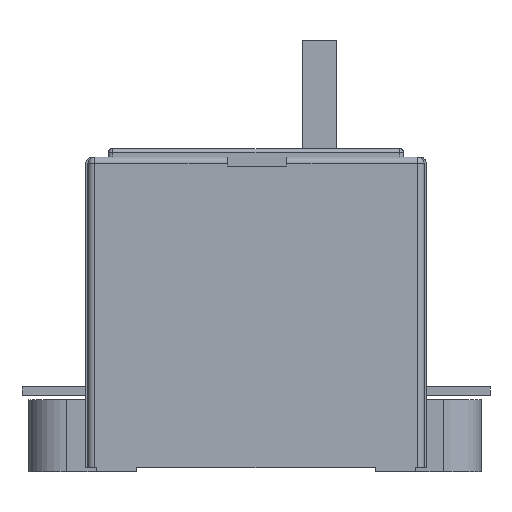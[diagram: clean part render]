
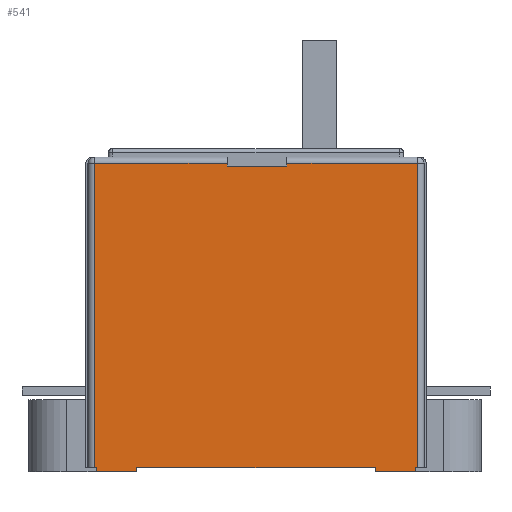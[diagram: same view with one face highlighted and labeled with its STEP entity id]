
A CAD part, left-side view. The second image highlights one B-rep face of the part: STEP entity #541.
In plain terms, the highlighted planar face has unit normal (-1, 0, 0).
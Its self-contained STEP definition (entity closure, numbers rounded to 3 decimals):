
#541=ADVANCED_FACE('',(#1103),#886,.F.);
#886=PLANE('',#6501);
#1103=FACE_OUTER_BOUND('',#1433,.T.);
#1433=EDGE_LOOP('',(#2204,#2205,#2206,#2207,#2208,#2209,#2210,#2211,#2212,
#2213,#2214,#2215,#2216,#2217,#2218,#2219));
#2204=ORIENTED_EDGE('',*,*,#4480,.F.);
#2205=ORIENTED_EDGE('',*,*,#4481,.T.);
#2206=ORIENTED_EDGE('',*,*,#4482,.T.);
#2207=ORIENTED_EDGE('',*,*,#4483,.F.);
#2208=ORIENTED_EDGE('',*,*,#4484,.T.);
#2209=ORIENTED_EDGE('',*,*,#4485,.T.);
#2210=ORIENTED_EDGE('',*,*,#4478,.T.);
#2211=ORIENTED_EDGE('',*,*,#4330,.T.);
#2212=ORIENTED_EDGE('',*,*,#4475,.F.);
#2213=ORIENTED_EDGE('',*,*,#4486,.F.);
#2214=ORIENTED_EDGE('',*,*,#4487,.T.);
#2215=ORIENTED_EDGE('',*,*,#4165,.T.);
#2216=ORIENTED_EDGE('',*,*,#4488,.F.);
#2217=ORIENTED_EDGE('',*,*,#4489,.F.);
#2218=ORIENTED_EDGE('',*,*,#4490,.T.);
#2219=ORIENTED_EDGE('',*,*,#4346,.T.);
#3603=VERTEX_POINT('',#8896);
#3604=VERTEX_POINT('',#8898);
#3760=VERTEX_POINT('',#9241);
#3761=VERTEX_POINT('',#9243);
#3772=VERTEX_POINT('',#9269);
#3775=VERTEX_POINT('',#9275);
#3855=VERTEX_POINT('',#9522);
#3857=VERTEX_POINT('',#9530);
#3858=VERTEX_POINT('',#9534);
#3859=VERTEX_POINT('',#9536);
#3860=VERTEX_POINT('',#9538);
#3861=VERTEX_POINT('',#9540);
#3862=VERTEX_POINT('',#9542);
#3863=VERTEX_POINT('',#9545);
#3864=VERTEX_POINT('',#9548);
#3865=VERTEX_POINT('',#9550);
#4165=EDGE_CURVE('',#3604,#3603,#5068,.T.);
#4330=EDGE_CURVE('',#3761,#3760,#5200,.T.);
#4346=EDGE_CURVE('',#3772,#3775,#5212,.T.);
#4475=EDGE_CURVE('',#3855,#3760,#5326,.T.);
#4478=EDGE_CURVE('',#3857,#3761,#5329,.T.);
#4480=EDGE_CURVE('',#3858,#3775,#5330,.T.);
#4481=EDGE_CURVE('',#3858,#3859,#5331,.T.);
#4482=EDGE_CURVE('',#3859,#3860,#5332,.T.);
#4483=EDGE_CURVE('',#3861,#3860,#5333,.T.);
#4484=EDGE_CURVE('',#3861,#3862,#5334,.T.);
#4485=EDGE_CURVE('',#3862,#3857,#5335,.T.);
#4486=EDGE_CURVE('',#3863,#3855,#5336,.T.);
#4487=EDGE_CURVE('',#3863,#3604,#5337,.T.);
#4488=EDGE_CURVE('',#3864,#3603,#5338,.T.);
#4489=EDGE_CURVE('',#3865,#3864,#5339,.T.);
#4490=EDGE_CURVE('',#3865,#3772,#5340,.T.);
#5068=LINE('',#8897,#5746);
#5200=LINE('',#9242,#5878);
#5212=LINE('',#9276,#5890);
#5326=LINE('',#9523,#6004);
#5329=LINE('',#9529,#6007);
#5330=LINE('',#9533,#6008);
#5331=LINE('',#9535,#6009);
#5332=LINE('',#9537,#6010);
#5333=LINE('',#9539,#6011);
#5334=LINE('',#9541,#6012);
#5335=LINE('',#9543,#6013);
#5336=LINE('',#9544,#6014);
#5337=LINE('',#9546,#6015);
#5338=LINE('',#9547,#6016);
#5339=LINE('',#9549,#6017);
#5340=LINE('',#9551,#6018);
#5746=VECTOR('',#7017,1.);
#5878=VECTOR('',#7261,1.);
#5890=VECTOR('',#7287,1.);
#6004=VECTOR('',#7507,1.);
#6007=VECTOR('',#7514,1.);
#6008=VECTOR('',#7519,1.);
#6009=VECTOR('',#7520,1.);
#6010=VECTOR('',#7521,1.);
#6011=VECTOR('',#7522,1.);
#6012=VECTOR('',#7523,1.);
#6013=VECTOR('',#7524,1.);
#6014=VECTOR('',#7525,1.);
#6015=VECTOR('',#7526,1.);
#6016=VECTOR('',#7527,1.);
#6017=VECTOR('',#7528,1.);
#6018=VECTOR('',#7529,1.);
#6501=AXIS2_PLACEMENT_3D('',#9552,#7530,#7531);
#7017=DIRECTION('',(0.,-1.,0.));
#7261=DIRECTION('',(0.,-1.,0.));
#7287=DIRECTION('',(0.,-1.,0.));
#7507=DIRECTION('',(0.,0.,1.));
#7514=DIRECTION('',(0.,0.,-1.));
#7519=DIRECTION('',(0.,0.,-1.));
#7520=DIRECTION('',(0.,1.,0.));
#7521=DIRECTION('',(0.,0.,-1.));
#7522=DIRECTION('',(0.,-1.,0.));
#7523=DIRECTION('',(0.,0.,1.));
#7524=DIRECTION('',(0.,1.,0.));
#7525=DIRECTION('',(0.,1.,0.));
#7526=DIRECTION('',(0.,0.,1.));
#7527=DIRECTION('',(0.,0.,1.));
#7528=DIRECTION('',(0.,1.,0.));
#7529=DIRECTION('',(0.,0.,1.));
#7530=DIRECTION('',(1.,0.,0.));
#7531=DIRECTION('',(0.,0.,-1.));
#8896=CARTESIAN_POINT('',(-66.,-28.,1.));
#8897=CARTESIAN_POINT('',(-66.,-37.5,1.));
#8898=CARTESIAN_POINT('',(-66.,28.,1.));
#9241=CARTESIAN_POINT('',(-66.,37.5,1.));
#9242=CARTESIAN_POINT('',(-66.,-37.5,1.));
#9243=CARTESIAN_POINT('',(-66.,38.,1.));
#9269=CARTESIAN_POINT('',(-66.,-37.5,1.));
#9275=CARTESIAN_POINT('',(-66.,-38.,1.));
#9276=CARTESIAN_POINT('',(-66.,-37.5,1.));
#9522=CARTESIAN_POINT('',(-66.,37.5,0.));
#9523=CARTESIAN_POINT('',(-66.,37.5,-1.));
#9529=CARTESIAN_POINT('',(-66.,38.,74.));
#9530=CARTESIAN_POINT('',(-66.,38.,72.5));
#9533=CARTESIAN_POINT('',(-66.,-38.,74.));
#9534=CARTESIAN_POINT('',(-66.,-38.,72.5));
#9535=CARTESIAN_POINT('',(-66.,38.,72.5));
#9536=CARTESIAN_POINT('',(-66.,-7.25,72.5));
#9537=CARTESIAN_POINT('',(-66.,-7.25,74.));
#9538=CARTESIAN_POINT('',(-66.,-7.25,71.9));
#9539=CARTESIAN_POINT('',(-66.,37.5,71.9));
#9540=CARTESIAN_POINT('',(-66.,6.75,71.9));
#9541=CARTESIAN_POINT('',(-66.,6.75,74.));
#9542=CARTESIAN_POINT('',(-66.,6.75,72.5));
#9543=CARTESIAN_POINT('',(-66.,38.,72.5));
#9544=CARTESIAN_POINT('',(-66.,28.,0.));
#9545=CARTESIAN_POINT('',(-66.,28.,0.));
#9546=CARTESIAN_POINT('',(-66.,28.,-1.));
#9547=CARTESIAN_POINT('',(-66.,-28.,-1.));
#9548=CARTESIAN_POINT('',(-66.,-28.,0.));
#9549=CARTESIAN_POINT('',(-66.,-37.5,0.));
#9550=CARTESIAN_POINT('',(-66.,-37.5,0.));
#9551=CARTESIAN_POINT('',(-66.,-37.5,-1.));
#9552=CARTESIAN_POINT('',(-66.,-37.5,74.));
